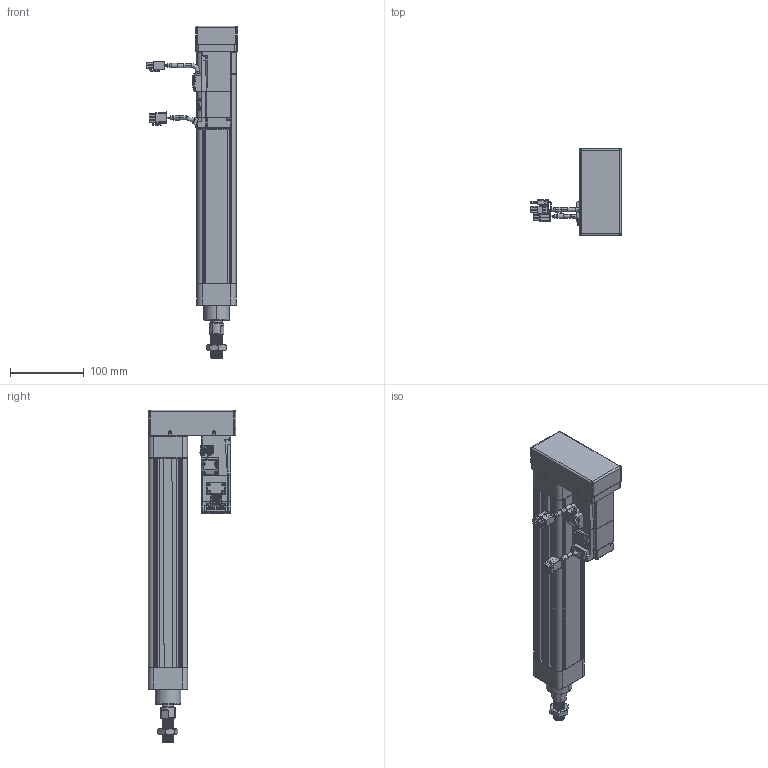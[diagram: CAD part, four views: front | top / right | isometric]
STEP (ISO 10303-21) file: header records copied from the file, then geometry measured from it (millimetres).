
FILE_DESCRIPTION (( 'STEP AP203' ), '1' );
FILE_NAME ('VEC50-10-C-200-MF-ZP10B-MS2.STEP', '2019-01-26T02:39:09', ( 'vobosh 6' ), ( 'Microsoft' ), 'SwSTEP 2.0', 'SolidWorks 2016', '' );
FILE_SCHEMA (( 'CONFIG_CONTROL_DESIGN' ));
Length unit declared in the file: millimetre
Products named in the file (12): 鞠褒蹟譫M16x1.5; VEC50-MF-200-004-X1; VEC50-MF-200-001-X1; MHMF012L1V2; VEC50-MF-200-002-X1; VEC50-MF-200-005-X1; VEC50-MF-200-003-X1; VEC50-10-C-200-MF-ZP10B-MS2; 带尾螺母M6x9x45（镀镍）; 柈ч肣薦え耳9x耳8.5x4.4; VEC50-MF-200-011-X1; CS1-M
Assembly tree (20 placements, depth 2):
  VEC50-10-C-200-MF-ZP10B-MS2
    VEC50-MF-200-001-X1
    VEC50-MF-200-002-X1
    VEC50-MF-200-003-X1
    带尾螺母M6x9x45（镀镍）  x8
    柈ч肣薦え耳9x耳8.5x4.4  x2
    VEC50-MF-200-011-X1
    CS1-M  x2
    鞠褒蹟譫M16x1.5
    VEC50-MF-200-004-X1
    MHMF012L1V2
    VEC50-MF-200-005-X1
Bounding box: 122.5 x 118 x 449 mm (x, y, z)
Volume: 763387.7 mm3; surface area: 276701.5 mm2
Topology: 27 solids, 27 shells, 1970 faces, 4861 edges, 3048 vertices
Faces by surface type: plane 902, cylinder 703, cone 239, bspline 117, torus 9
Entity records: 59744 total; most frequent: CARTESIAN_POINT 16772, DIRECTION 8631, ORIENTED_EDGE 8630, EDGE_CURVE 4315, AXIS2_PLACEMENT_3D 2988, VERTEX_POINT 2755, LINE 2655, VECTOR 2655
